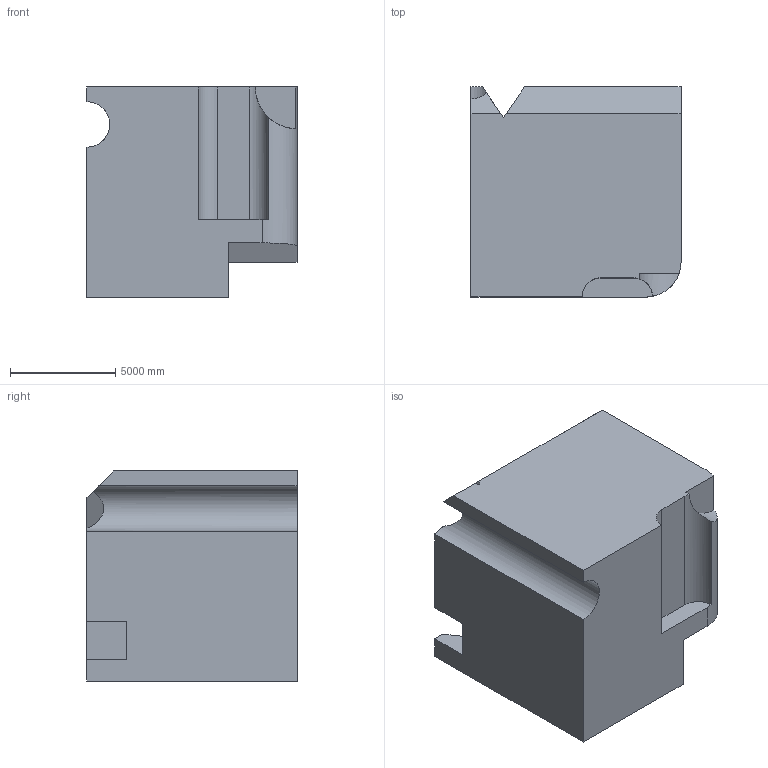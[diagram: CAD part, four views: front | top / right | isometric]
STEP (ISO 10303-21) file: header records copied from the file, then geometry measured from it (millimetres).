
FILE_DESCRIPTION (( 'STEP AP203' ), '1' );
FILE_NAME ('1773.STEP', '2022-08-19T12:46:10', ( 'user' ), ( '' ), 'SwSTEP 2.0', 'SolidWorks 2021', '' );
FILE_SCHEMA (( 'CONFIG_CONTROL_DESIGN' ));
Length unit declared in the file: centimetre
Products named in the file (1): 1773
Bounding box: 10000 x 10000 x 10000 mm (x, y, z)
Volume: 858238647484.5 mm3; surface area: 602129189.8 mm2
Topology: 1 solids, 1 shells, 29 faces, 81 edges, 54 vertices
Faces by surface type: plane 24, cylinder 5
Entity records: 1134 total; most frequent: CARTESIAN_POINT 311, ORIENTED_EDGE 162, DIRECTION 145, EDGE_CURVE 81, LINE 67, VECTOR 67, VERTEX_POINT 54, AXIS2_PLACEMENT_3D 39
